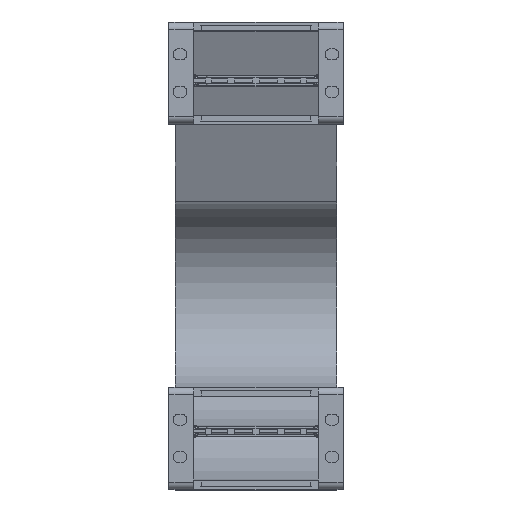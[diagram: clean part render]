
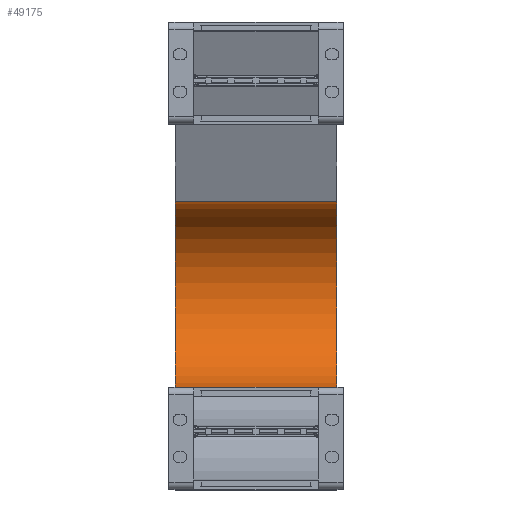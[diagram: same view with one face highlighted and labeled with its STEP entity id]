
A CAD part, top view. The second image highlights one B-rep face of the part: STEP entity #49175.
In plain terms, the highlighted cylindrical face has radius 37.5 mm (diameter 75 mm), a partial arc.
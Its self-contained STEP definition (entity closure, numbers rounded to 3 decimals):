
#48327=DIRECTION('',(-1.,0.,0.));
#48328=VECTOR('',#48327,65.);
#48329=CARTESIAN_POINT('',(32.5,41.,-400.));
#48330=LINE('',#48329,#48328);
#48341=DIRECTION('',(-1.,0.,0.));
#48342=VECTOR('',#48341,65.);
#48343=CARTESIAN_POINT('',(32.5,115.857,-403.273));
#48344=LINE('',#48343,#48342);
#48348=CARTESIAN_POINT('',(32.5,78.5,-400.));
#48349=DIRECTION('',(-1.,0.,0.));
#48350=DIRECTION('',(0.,0.996,-0.087));
#48351=AXIS2_PLACEMENT_3D('',#48348,#48349,#48350);
#48427=CARTESIAN_POINT('',(-32.5,78.5,-400.));
#48428=DIRECTION('',(-1.,0.,0.));
#48429=DIRECTION('',(0.,0.996,-0.087));
#48430=AXIS2_PLACEMENT_3D('',#48427,#48428,#48429);
#48549=CARTESIAN_POINT('',(32.5,115.857,-403.273));
#48550=CARTESIAN_POINT('',(-32.5,115.857,-403.273));
#48551=VERTEX_POINT('',#48549);
#48552=VERTEX_POINT('',#48550);
#48573=CARTESIAN_POINT('',(32.5,41.,-400.));
#48574=CARTESIAN_POINT('',(-32.5,41.,-400.));
#48575=VERTEX_POINT('',#48573);
#48576=VERTEX_POINT('',#48574);
#49161=CARTESIAN_POINT('',(1.,78.5,-400.));
#49162=DIRECTION('',(-1.,0.,0.));
#49163=DIRECTION('',(0.,-0.996,0.087));
#49164=AXIS2_PLACEMENT_3D('',#49161,#49162,#49163);
#49165=CYLINDRICAL_SURFACE('',#49164,37.5);
#49167=ORIENTED_EDGE('',*,*,#49166,.F.);
#49169=ORIENTED_EDGE('',*,*,#49168,.T.);
#49170=ORIENTED_EDGE('',*,*,#49144,.T.);
#49172=ORIENTED_EDGE('',*,*,#49171,.F.);
#49173=EDGE_LOOP('',(#49167,#49169,#49170,#49172));
#49174=FACE_OUTER_BOUND('',#49173,.F.);
#48352=CIRCLE('',#48351,37.5);
#48431=CIRCLE('',#48430,37.5);
#49144=EDGE_CURVE('',#48575,#48576,#48330,.T.);
#49166=EDGE_CURVE('',#48551,#48552,#48344,.T.);
#49168=EDGE_CURVE('',#48551,#48575,#48352,.T.);
#49171=EDGE_CURVE('',#48552,#48576,#48431,.T.);
#49175=ADVANCED_FACE('',(#49174),#49165,.F.);
